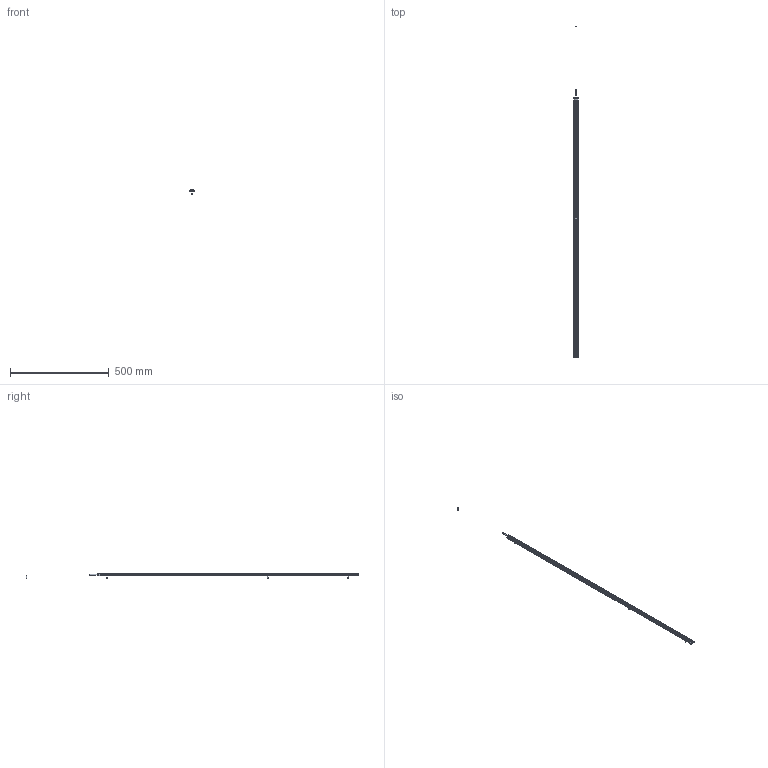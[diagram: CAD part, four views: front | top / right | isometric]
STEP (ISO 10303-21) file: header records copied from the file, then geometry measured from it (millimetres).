
FILE_DESCRIPTION (( 'STEP AP214' ), '1' );
FILE_NAME ('ILGA-B-K1-1320mm.STEP', '2026-04-24T22:50:26', ( '' ), ( '' ), 'SwSTEP 2.0', 'SolidWorks 2025', '' );
FILE_SCHEMA (( 'AUTOMOTIVE_DESIGN' ));
Length unit declared in the file: millimetre
Products named in the file (1): ILGA-B-K1-1320mm
Bounding box: 22.4 x 1679.5 x 25.7 mm (x, y, z)
Volume: 100468.1 mm3; surface area: 179893 mm2
Topology: 13 solids, 13 shells, 724 faces, 1856 edges, 1136 vertices
Faces by surface type: plane 314, cylinder 268, cone 60, torus 42, bspline 24, sphere 16
Entity records: 30221 total; most frequent: CARTESIAN_POINT 4617, DIRECTION 3820, ORIENTED_EDGE 3624, EDGE_CURVE 1812, AXIS2_PLACEMENT_3D 1427, VERTEX_POINT 1136, VECTOR 966, LINE 966
